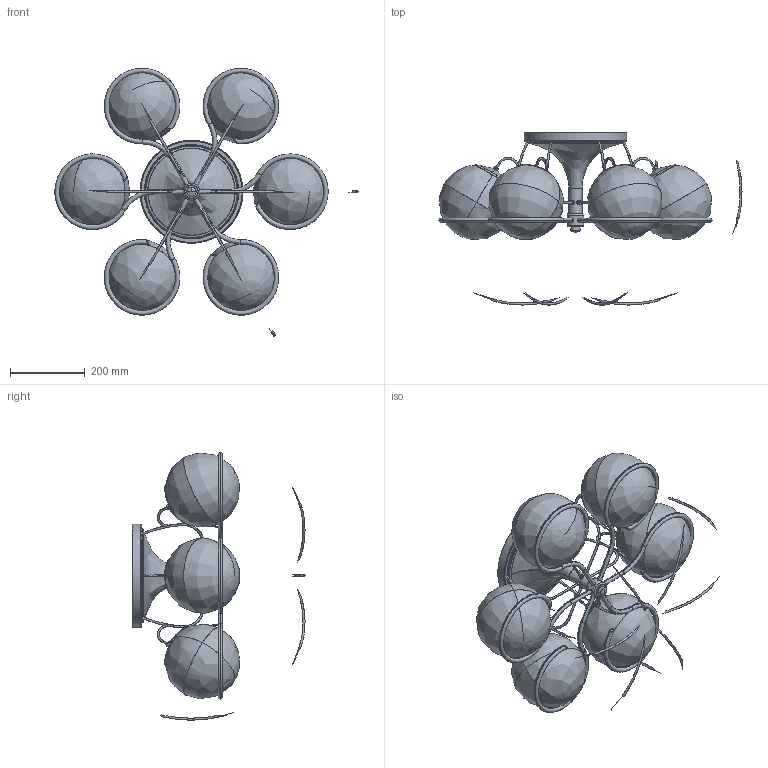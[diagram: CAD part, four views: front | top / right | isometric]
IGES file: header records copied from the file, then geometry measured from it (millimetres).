
Global section: file name: /Users/nicholas/Desktop/Model 2042:6/Model 2042:6.igs; preprocessor: Trout Lake IGES 012 May 14 2018; date: 190524.095822; units: millimetre
Bounding box: 886.85 x 603.77 x 769.75 mm (x, y, z)
Surface area: 2326712.3 mm2 (no closed solid volume)
Topology: 0 solids, 0 shells, 528 faces, 3740 edges, 3712 vertices
Faces by surface type: bspline 528
